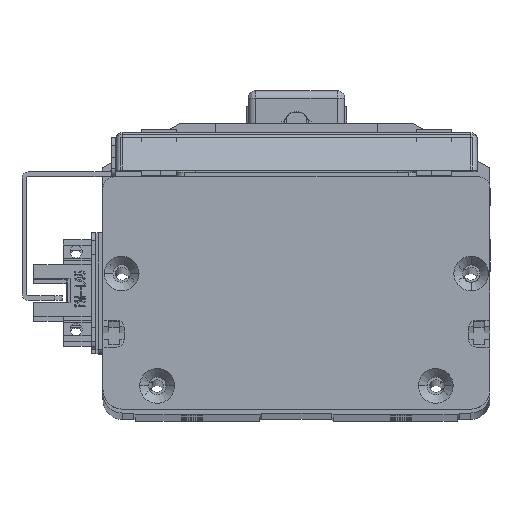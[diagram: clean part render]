
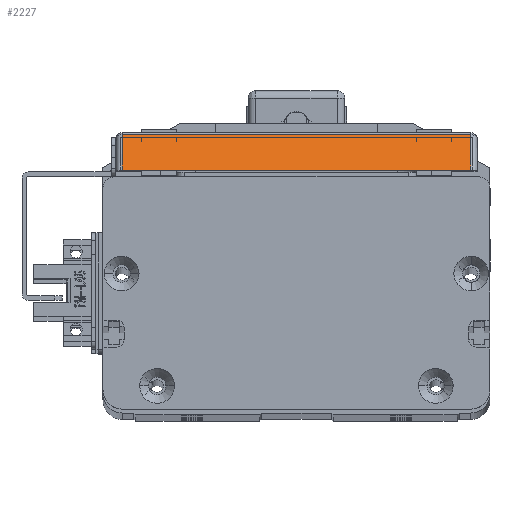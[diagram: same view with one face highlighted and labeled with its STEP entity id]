
A CAD part, top view. The second image highlights one B-rep face of the part: STEP entity #2227.
In plain terms, the highlighted planar face has unit normal (0, 0.707, 0.707) as drawn and (-0.707, 0, -0.707) by its records, which use the part's own axes.
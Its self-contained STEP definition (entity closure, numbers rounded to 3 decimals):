
#2227 = ADVANCED_FACE ( 'NONE', ( #6487 ), #46237, .T. ) ;
#3135 = DIRECTION ( 'NONE',  ( 0.707, 0., -0.707 ) ) ;
#4586 = ORIENTED_EDGE ( 'NONE', *, *, #31336, .T. ) ;
#6487 = FACE_OUTER_BOUND ( 'NONE', #25665, .T. ) ;
#11913 = CARTESIAN_POINT ( 'NONE',  ( -66.5, 93.4, 4.1 ) ) ;
#15238 = VERTEX_POINT ( 'NONE', #50217 ) ;
#15753 = LINE ( 'NONE', #16439, #48393 ) ;
#16273 = ORIENTED_EDGE ( 'NONE', *, *, #52128, .T. ) ;
#16439 = CARTESIAN_POINT ( 'NONE',  ( -68., 1.7, 5.6 ) ) ;
#19923 = EDGE_CURVE ( 'NONE', #68059, #26176, #33577, .T. ) ;
#20097 = CARTESIAN_POINT ( 'NONE',  ( -57.298, 93.4, -5.102 ) ) ;
#22014 = CARTESIAN_POINT ( 'NONE',  ( -57.298, 1.7, -5.102 ) ) ;
#23064 = VERTEX_POINT ( 'NONE', #56111 ) ;
#25665 = EDGE_LOOP ( 'NONE', ( #4586, #56190, #16273, #64959 ) ) ;
#26176 = VERTEX_POINT ( 'NONE', #22014 ) ;
#31336 = EDGE_CURVE ( 'NONE', #26176, #15238, #15753, .T. ) ;
#33577 = LINE ( 'NONE', #20097, #67733 ) ;
#33731 = DIRECTION ( 'NONE',  ( 0., 1., 0. ) ) ;
#35094 = EDGE_CURVE ( 'NONE', #15238, #23064, #65419, .T. ) ;
#36774 = AXIS2_PLACEMENT_3D ( 'NONE', #39994, #56056, #56752 ) ;
#39994 = CARTESIAN_POINT ( 'NONE',  ( -68., 93.4, 5.6 ) ) ;
#45123 = VECTOR ( 'NONE', #3135, 1000. ) ;
#45935 = LINE ( 'NONE', #50862, #45123 ) ;
#46237 = PLANE ( 'NONE',  #36774 ) ;
#47277 = DIRECTION ( 'NONE',  ( 0., -1., 0. ) ) ;
#48393 = VECTOR ( 'NONE', #53885, 1000. ) ;
#50217 = CARTESIAN_POINT ( 'NONE',  ( -66.5, 1.7, 4.1 ) ) ;
#50862 = CARTESIAN_POINT ( 'NONE',  ( -68., 91.7, 5.6 ) ) ;
#51259 = VECTOR ( 'NONE', #33731, 1000. ) ;
#52128 = EDGE_CURVE ( 'NONE', #23064, #68059, #45935, .T. ) ;
#53885 = DIRECTION ( 'NONE',  ( -0.707, 0., 0.707 ) ) ;
#56056 = DIRECTION ( 'NONE',  ( -0.707, 0., -0.707 ) ) ;
#56111 = CARTESIAN_POINT ( 'NONE',  ( -66.5, 91.7, 4.1 ) ) ;
#56190 = ORIENTED_EDGE ( 'NONE', *, *, #35094, .T. ) ;
#56752 = DIRECTION ( 'NONE',  ( -0.707, 0., 0.707 ) ) ;
#64959 = ORIENTED_EDGE ( 'NONE', *, *, #19923, .T. ) ;
#65419 = LINE ( 'NONE', #11913, #51259 ) ;
#65486 = CARTESIAN_POINT ( 'NONE',  ( -57.298, 91.7, -5.102 ) ) ;
#67733 = VECTOR ( 'NONE', #47277, 1000. ) ;
#68059 = VERTEX_POINT ( 'NONE', #65486 ) ;
